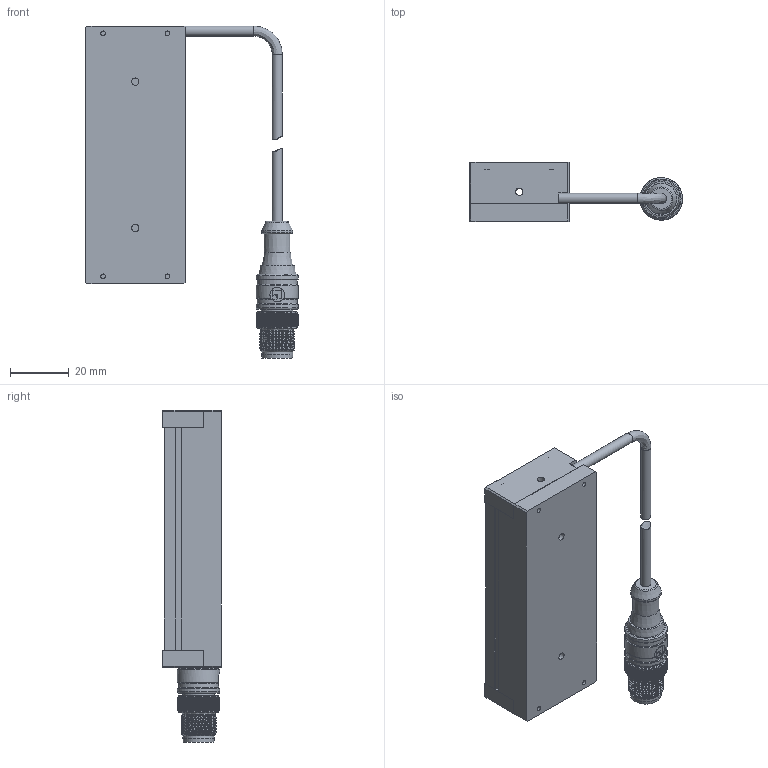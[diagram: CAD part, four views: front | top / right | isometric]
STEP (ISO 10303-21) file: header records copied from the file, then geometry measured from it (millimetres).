
FILE_DESCRIPTION (( 'STEP AP203' ), '1' );
FILE_NAME ('EFFI-LSBR-075-6-x.STEP', '2019-05-16T03:20:23', ( '' ), ( '' ), 'SwSTEP 2.0', 'SolidWorks 2011', '' );
FILE_SCHEMA (( 'CONFIG_CONTROL_DESIGN' ));
Products named in the file (1): EFFI-LSBR-075-6-x
Bounding box: 72.75 x 20 x 113.4 mm (x, y, z)
Surface area: 16842.5 mm2 (no closed solid volume)
Topology: 0 solids, 405 shells, 3288 faces, 10614 edges, 7427 vertices
Faces by surface type: bspline 2777, cylinder 344, cone 76, plane 75, torus 16
Full cylindrical faces by diameter (mm): 1 x4, 1.6 x6, 2.5 x4, 3.5 x3, 4.4 x4, 5 x1, 8.3 x1, 10.5 x1, 10.7 x1, 10.9 x1, 11 x1, 12 x6, 13.75 x1, 13.9 x2, 14.499 x1, 14.5 x2
Entity records: 143258 total; most frequent: CARTESIAN_POINT 90342, ORIENTED_EDGE 13959, EDGE_CURVE 10460, VERTEX_POINT 7374, B_SPLINE_CURVE_WITH_KNOTS 6402, EDGE_LOOP 3422, FACE_OUTER_BOUND 3345, ADVANCED_FACE 3288
